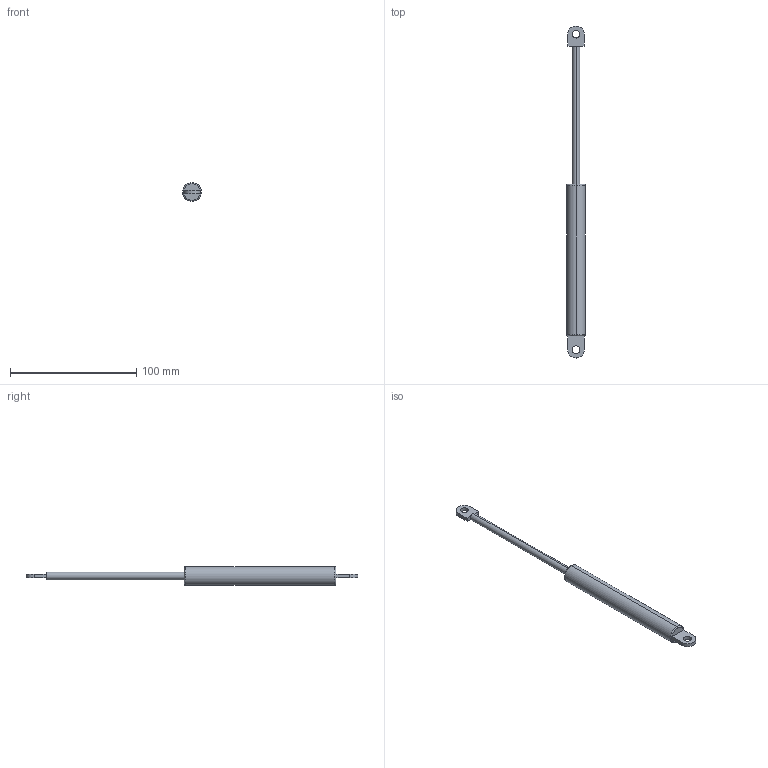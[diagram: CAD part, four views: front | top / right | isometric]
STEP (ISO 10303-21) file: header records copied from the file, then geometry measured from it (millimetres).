
FILE_DESCRIPTION (( 'STEP AP203' ), '1' );
FILE_NAME ('084.527.001.STEP', '2018-03-09T14:22:56', ( '' ), ( '' ), 'SwSTEP 2.0', 'SolidWorks 2016', '' );
FILE_SCHEMA (( 'CONFIG_CONTROL_DESIGN' ));
Length unit declared in the file: millimetre
Products named in the file (3): 084.527.002 - STELO_Default<A macchina>; 084.527.001; 084.527.002 - CORPO
Assembly tree (2 placements, depth 2):
  084.527.001
    084.527.002 - CORPO
    084.527.002 - STELO_Default<A macchina>
Bounding box: 15 x 263 x 15 mm (x, y, z)
Volume: 25736.9 mm3; surface area: 9385.3 mm2
Topology: 2 solids, 2 shells, 30 faces, 70 edges, 44 vertices
Faces by surface type: plane 16, cylinder 10, torus 4
Entity records: 1187 total; most frequent: CARTESIAN_POINT 171, DIRECTION 168, ORIENTED_EDGE 140, EDGE_CURVE 70, AXIS2_PLACEMENT_3D 69, VERTEX_POINT 44, CIRCLE 34, EDGE_LOOP 34
